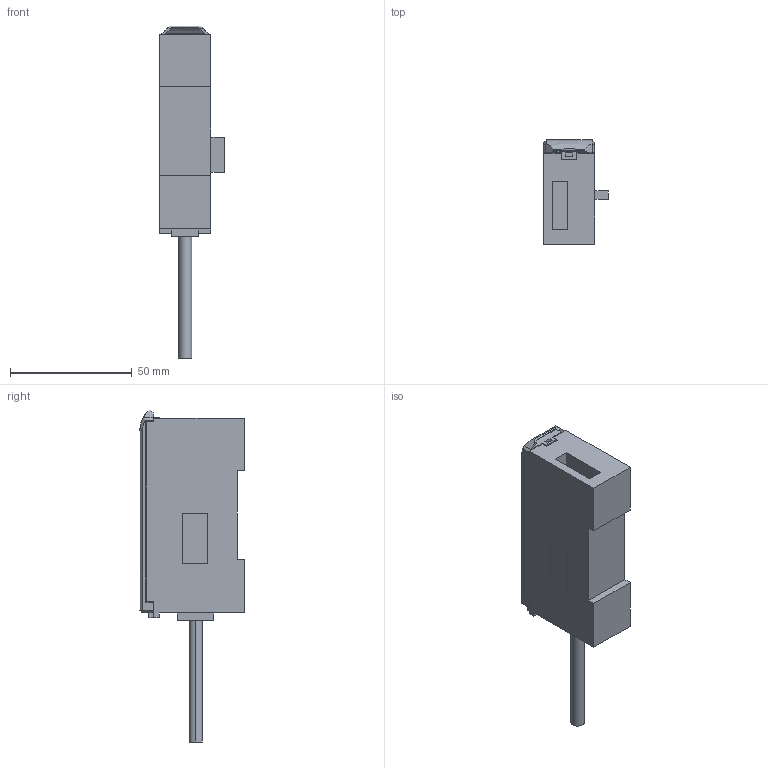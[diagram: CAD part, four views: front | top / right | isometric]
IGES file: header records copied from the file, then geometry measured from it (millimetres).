
Start section: SolidWorks IGES file using analytic representation for surfaces
Global section: file name: C:\catalog\hg-sc111.IGS; native system: SolidWorks 2010; preprocessor: SolidWorks 2010; author: 90C1105; date: 151002.203958; units: millimetre
Bounding box: 26.7 x 43.07 x 136.4 mm (x, y, z)
Surface area: 18789.4 mm2 (no closed solid volume)
Topology: 0 solids, 0 shells, 197 faces, 1095 edges, 1095 vertices
Faces by surface type: bspline 192, revolution 5
